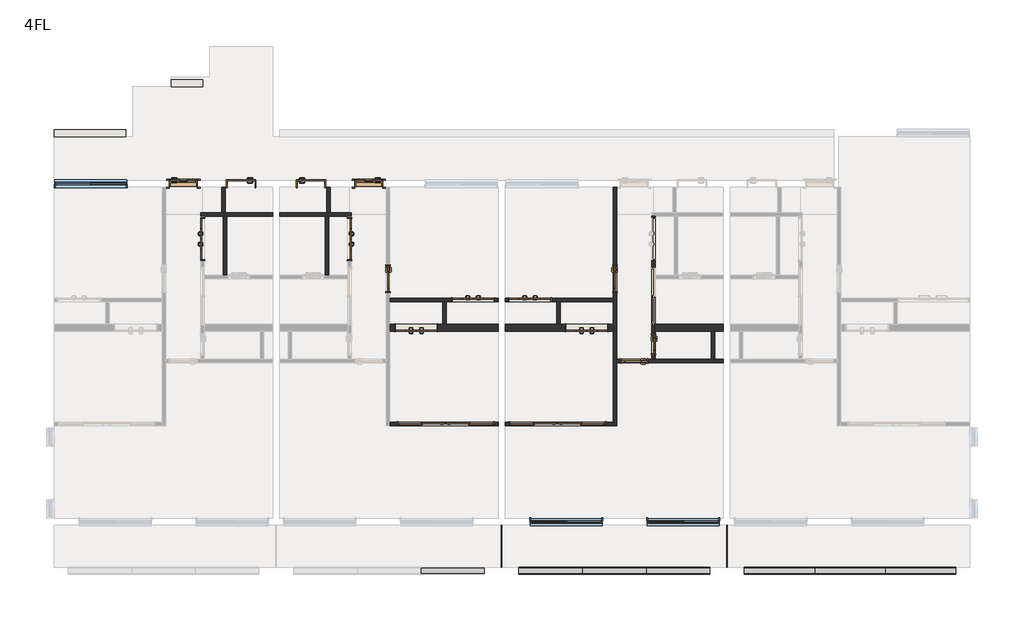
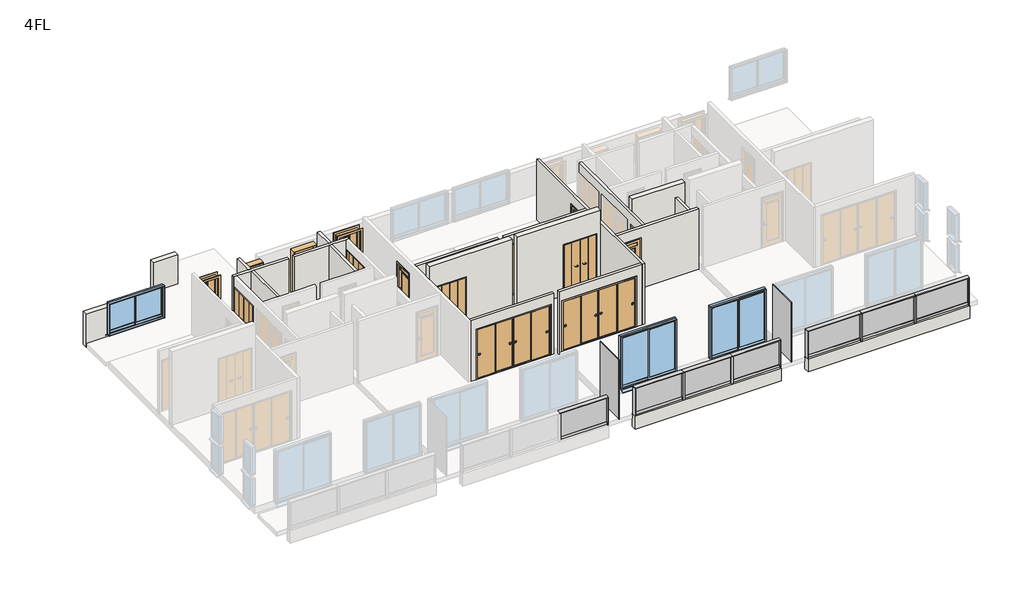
# One storey, part 2 of 3: 23 walls, 16 doors, 16 members, 9 plates, 3 windows.
"""IFC4 building model written with IfcOpenShell, lengths in millimetres."""

from ifc_helpers import new_model, si_unit, frame, origin, place, context, project, spatial, polyline, outline, extrude, faceted_brep, transform, mapped, element, save
from components import door_800x2000_a7d1584b, door_800x2000_010bfebf, w1200h2000_6a144d60, w1200h2000_98cacc9b, w1200h2000_99d19fb3, w1200h2000_ebe1d490, w2800h2000_670b855b, w2800h2000_04aa64cd, w600h2000_7f2747f4, w800h2000_1d97c4d4, w800h2000_13e9f519, w800h2000_ccb03061, w800h2000_0ab7d42c, member_25x150_3f8205e2, member_25x150_f694351b, member_25x150_e95393f9, member_70x150_851c8a9b, plate_9f48129f, plate_365944b3, plate_b830f844, plate_2f85ae4c, plate_cef4847d, window_2000x1200_fc91d1cf, window_2000x2000_f1ff98da

model = new_model("IFC4")

# Units and contexts
model_context = context("Model", 3, world=origin())
ifc_project = project(units=[si_unit("LENGTHUNIT", "METRE", prefix="MILLI")], contexts=[model_context])

# Site, building, storey
site = spatial("IfcSite", under=ifc_project)
building = spatial("IfcBuilding", under=site)
storey = spatial("IfcBuildingStorey", under=building, Name="4FL", Elevation=10000.0)

# Doors
placement = place(None, origin())
door_800x2000_shape = door_800x2000_a7d1584b(model_context)
element("IfcDoor", 1, ObjectType="片開き3 : 800x2000", at=placement, inside=storey, context=model_context, shape_type="MappedRepresentation", body=[
    mapped(door_800x2000_shape, transform((-7378.7187246, -5700.1171638, 10000.0), x_axis=(1.0, 0.0, 0.0), y_axis=(0.0, 1.0, 0.0), z_axis=(0.0, 0.0, 1.0))),
])
door_800x2000_2_shape = door_800x2000_010bfebf(model_context)
element("IfcDoor", 2, ObjectType="片開き3 : 800x2000", at=placement, inside=storey, context=model_context, shape_type="MappedRepresentation", body=[
    mapped(door_800x2000_2_shape, transform((-2078.7187246, -5700.1171638, 10000.0), x_axis=(-1.0, 0.0, 0.0), y_axis=(0.0, -1.0, 0.0), z_axis=(0.0, 0.0, 1.0))),
])
w1200h2000_shape = w1200h2000_6a144d60(model_context)
element("IfcDoor", 3, ObjectType="木製折戸 : w1200h2000", at=placement, inside=storey, context=model_context, shape_type="MappedRepresentation", body=[
    mapped(w1200h2000_shape, transform((-6828.7187246, -7280.1171638, 10100.0), x_axis=(0.0, 1.0, 0.0), y_axis=(-1.0, 0.0, 0.0), z_axis=(0.0, 0.0, 1.0))),
])
element("IfcDoor", 4, ObjectType="木製折戸 : w1200h2000", at=placement, inside=storey, context=model_context, shape_type="MappedRepresentation", body=[
    mapped(w1200h2000_shape, transform((2533.7812754, -9020.1171638, 10100.0), x_axis=(1.0, 0.0, 0.0), y_axis=(0.0, 1.0, 0.0), z_axis=(0.0, 0.0, 1.0))),
])
w1200h2000_2_shape = w1200h2000_98cacc9b(model_context)
element("IfcDoor", 5, ObjectType="木製折戸 : w1200h2000", at=placement, inside=storey, context=model_context, shape_type="MappedRepresentation", body=[
    mapped(w1200h2000_2_shape, transform((4158.7812754, -9820.1171638, 10100.0), x_axis=(-1.0, 0.0, 0.0), y_axis=(0.0, -1.0, 0.0), z_axis=(0.0, 0.0, 1.0))),
])
w1200h2000_3_shape = w1200h2000_99d19fb3(model_context)
element("IfcDoor", 6, ObjectType="木製折戸 : w1200h2000", at=placement, inside=storey, context=model_context, shape_type="MappedRepresentation", body=[
    mapped(w1200h2000_3_shape, transform((908.7812754, -9020.1171638, 10100.0), x_axis=(-1.0, 0.0, 0.0), y_axis=(0.0, -1.0, 0.0), z_axis=(0.0, 0.0, 1.0))),
])
element("IfcDoor", 7, ObjectType="木製折戸 : w1200h2000", at=placement, inside=storey, context=model_context, shape_type="MappedRepresentation", body=[
    mapped(w1200h2000_3_shape, transform((-2628.7187246, -7280.1171638, 10100.0), x_axis=(0.0, 1.0, 0.0), y_axis=(-1.0, 0.0, 0.0), z_axis=(0.0, 0.0, 1.0))),
])
w1200h2000_4_shape = w1200h2000_ebe1d490(model_context)
element("IfcDoor", 8, ObjectType="木製折戸 : w1200h2000", at=placement, inside=storey, context=model_context, shape_type="MappedRepresentation", body=[
    mapped(w1200h2000_4_shape, transform((-716.2187246, -9820.1171638, 10100.0), x_axis=(1.0, 0.0, 0.0), y_axis=(0.0, 1.0, 0.0), z_axis=(0.0, 0.0, 1.0))),
])
w2800h2000_shape = w2800h2000_670b855b(model_context)
element("IfcDoor", 9, ObjectType="引違い 4 枚 2 溝_襖 : w2800h2000", at=placement, inside=storey, context=model_context, shape_type="MappedRepresentation", body=[
    mapped(w2800h2000_shape, transform((3315.7457714, -12570.1171638, 10100.0), x_axis=(-1.0, 0.0, 0.0), y_axis=(0.0, -1.0, 0.0), z_axis=(0.0, 0.0, 1.0))),
])
w2800h2000_2_shape = w2800h2000_04aa64cd(model_context)
element("IfcDoor", 10, ObjectType="引違い 4 枚 2 溝_襖 : w2800h2000", at=placement, inside=storey, context=model_context, shape_type="MappedRepresentation", body=[
    mapped(w2800h2000_2_shape, transform((126.8167793, -12570.1171638, 10100.0), x_axis=(1.0, 0.0, 0.0), y_axis=(0.0, 1.0, 0.0), z_axis=(0.0, 0.0, 1.0))),
])
w600h2000_shape = w600h2000_7f2747f4(model_context)
element("IfcDoor", 11, ObjectType="片開戸CL2058 : w600h2000", at=placement, inside=storey, context=model_context, shape_type="MappedRepresentation", body=[
    mapped(w600h2000_shape, transform((6071.2812754, -10295.1171638, 10100.0), x_axis=(0.0, -1.0, 0.0), y_axis=(1.0, 0.0, 0.0), z_axis=(0.0, 0.0, 1.0))),
])
w800h2000_shape = w800h2000_1d97c4d4(model_context)
element("IfcDoor", 12, ObjectType="片開 : w800h2000", at=placement, inside=storey, context=model_context, shape_type="MappedRepresentation", body=[
    mapped(w800h2000_shape, transform((-5728.7187246, -5700.1171638, 10000.0), x_axis=(-1.0, 0.0, 0.0), y_axis=(0.0, -1.0, 0.0), z_axis=(0.0, 0.0, 1.0))),
])
w800h2000_2_shape = w800h2000_13e9f519(model_context)
element("IfcDoor", 13, ObjectType="片開戸CL2058 : w800h2000", at=placement, inside=storey, context=model_context, shape_type="MappedRepresentation", body=[
    mapped(w800h2000_2_shape, transform((4971.2812754, -8420.1171638, 10100.0), x_axis=(0.0, -1.0, 0.0), y_axis=(1.0, 0.0, 0.0), z_axis=(0.0, 0.0, 1.0))),
])
w800h2000_3_shape = w800h2000_ccb03061(model_context)
element("IfcDoor", 14, ObjectType="片開戸CL2058 : w800h2000", at=placement, inside=storey, context=model_context, shape_type="MappedRepresentation", body=[
    mapped(w800h2000_3_shape, transform((-1528.7187246, -8420.1171638, 10100.0), x_axis=(0.0, -1.0, 0.0), y_axis=(1.0, 0.0, 0.0), z_axis=(0.0, 0.0, 1.0))),
])
element("IfcDoor", 15, ObjectType="片開戸CL2058 : w800h2000", at=placement, inside=storey, context=model_context, shape_type="MappedRepresentation", body=[
    mapped(w800h2000_3_shape, transform((5521.2812754, -10770.1171638, 10100.0), x_axis=(-1.0, 0.0, 0.0), y_axis=(0.0, -1.0, 0.0), z_axis=(0.0, 0.0, 1.0))),
])
w800h2000_4_shape = w800h2000_0ab7d42c(model_context)
element("IfcDoor", 16, ObjectType="片開 : w800h2000", at=placement, inside=storey, context=model_context, shape_type="MappedRepresentation", body=[
    mapped(w800h2000_4_shape, transform((-3728.7187246, -5700.1171638, 10000.0), x_axis=(1.0, 0.0, 0.0), y_axis=(0.0, 1.0, 0.0), z_axis=(0.0, 0.0, 1.0))),
])

# Members
member_25x150_shape = member_25x150_3f8205e2(model_context)
element("IfcMember", 17, ObjectType="長方形のマリオン : 25x150", at=placement, inside=storey, context=model_context, shape_type="MappedRepresentation", body=[
    mapped(member_25x150_shape, transform((1221.2812754, -16770.1171638, 10000.0), x_axis=(1.0, 0.0, 0.0), y_axis=(0.0, -1.0, 0.0), z_axis=(0.0, 0.0, -1.0))),
])
element("IfcMember", 18, ObjectType="長方形のマリオン : 25x150", at=placement, inside=storey, context=model_context, shape_type="MappedRepresentation", body=[
    mapped(member_25x150_shape, transform((7671.2812754, -16770.1171638, 10000.0), x_axis=(1.0, 0.0, 0.0), y_axis=(0.0, -1.0, 0.0), z_axis=(0.0, 0.0, -1.0))),
])
element("IfcMember", 19, ObjectType="長方形のマリオン : 25x150", at=placement, inside=storey, context=model_context, shape_type="MappedRepresentation", body=[
    mapped(member_25x150_shape, transform((14721.2812754, -16770.1171638, 10000.0), x_axis=(1.0, 0.0, 0.0), y_axis=(0.0, -1.0, 0.0), z_axis=(0.0, 0.0, -1.0))),
])
element("IfcMember", 20, ObjectType="長方形のマリオン : 25x150", at=placement, inside=storey, context=model_context, shape_type="MappedRepresentation", body=[
    mapped(member_25x150_shape, transform((2221.2812754, -16770.1171638, 11075.0), x_axis=(-1.0, 0.0, 0.0), y_axis=(0.0, -1.0, 0.0), z_axis=(0.0, 0.0, 1.0))),
])
element("IfcMember", 21, ObjectType="長方形のマリオン : 25x150", at=placement, inside=storey, context=model_context, shape_type="MappedRepresentation", body=[
    mapped(member_25x150_shape, transform((8671.2812754, -16770.1171638, 11075.0), x_axis=(-1.0, 0.0, 0.0), y_axis=(0.0, -1.0, 0.0), z_axis=(0.0, 0.0, 1.0))),
])
member_25x150_2_shape = member_25x150_f694351b(model_context)
element("IfcMember", 22, ObjectType="長方形のマリオン : 25x150", at=placement, inside=storey, context=model_context, shape_type="MappedRepresentation", body=[
    mapped(member_25x150_2_shape, transform((1221.2812754, -16770.1171638, 11100.0), x_axis=(0.0, 0.0, 1.0), y_axis=(0.0, -1.0, 0.0), z_axis=(1.0, 0.0, 0.0))),
])
element("IfcMember", 23, ObjectType="長方形のマリオン : 25x150", at=placement, inside=storey, context=model_context, shape_type="MappedRepresentation", body=[
    mapped(member_25x150_2_shape, transform((7671.2812754, -16770.1171638, 11100.0), x_axis=(0.0, 0.0, 1.0), y_axis=(0.0, -1.0, 0.0), z_axis=(1.0, 0.0, 0.0))),
])
element("IfcMember", 24, ObjectType="長方形のマリオン : 25x150", at=placement, inside=storey, context=model_context, shape_type="MappedRepresentation", body=[
    mapped(member_25x150_2_shape, transform((4037.947942, -16770.1171638, 11100.0), x_axis=(0.0, 0.0, 1.0), y_axis=(0.0, -1.0, 0.0), z_axis=(1.0, 0.0, 0.0))),
])
element("IfcMember", 25, ObjectType="長方形のマリオン : 25x150", at=placement, inside=storey, context=model_context, shape_type="MappedRepresentation", body=[
    mapped(member_25x150_2_shape, transform((5854.6146087, -16770.1171638, 11100.0), x_axis=(0.0, 0.0, 1.0), y_axis=(0.0, -1.0, 0.0), z_axis=(1.0, 0.0, 0.0))),
])
member_25x150_3_shape = member_25x150_e95393f9(model_context)
element("IfcMember", 26, ObjectType="長方形のマリオン : 25x150", at=placement, inside=storey, context=model_context, shape_type="MappedRepresentation", body=[
    mapped(member_25x150_3_shape, transform((14721.2812754, -16770.1171638, 11100.0), x_axis=(0.0, 0.0, 1.0), y_axis=(0.0, -1.0, 0.0), z_axis=(1.0, 0.0, 0.0))),
])
element("IfcMember", 27, ObjectType="長方形のマリオン : 25x150", at=placement, inside=storey, context=model_context, shape_type="MappedRepresentation", body=[
    mapped(member_25x150_3_shape, transform((10687.947942, -16770.1171638, 11100.0), x_axis=(0.0, 0.0, 1.0), y_axis=(0.0, -1.0, 0.0), z_axis=(1.0, 0.0, 0.0))),
])
element("IfcMember", 28, ObjectType="長方形のマリオン : 25x150", at=placement, inside=storey, context=model_context, shape_type="MappedRepresentation", body=[
    mapped(member_25x150_3_shape, transform((12704.6146087, -16770.1171638, 11100.0), x_axis=(0.0, 0.0, 1.0), y_axis=(0.0, -1.0, 0.0), z_axis=(1.0, 0.0, 0.0))),
])
member_70x150_shape = member_70x150_851c8a9b(model_context)
element("IfcMember", 29, ObjectType="長方形のマリオン : 70x150", at=placement, inside=storey, context=model_context, shape_type="MappedRepresentation", body=[
    mapped(member_70x150_shape, transform((4037.947942, -16770.1171638, 10000.0), x_axis=(1.0, 0.0, 0.0), y_axis=(0.0, -1.0, 0.0), z_axis=(0.0, 0.0, -1.0))),
])
element("IfcMember", 30, ObjectType="長方形のマリオン : 70x150", at=placement, inside=storey, context=model_context, shape_type="MappedRepresentation", body=[
    mapped(member_70x150_shape, transform((5854.6146087, -16770.1171638, 10000.0), x_axis=(1.0, 0.0, 0.0), y_axis=(0.0, -1.0, 0.0), z_axis=(0.0, 0.0, -1.0))),
])
element("IfcMember", 31, ObjectType="長方形のマリオン : 70x150", at=placement, inside=storey, context=model_context, shape_type="MappedRepresentation", body=[
    mapped(member_70x150_shape, transform((10687.947942, -16770.1171638, 10000.0), x_axis=(1.0, 0.0, 0.0), y_axis=(0.0, -1.0, 0.0), z_axis=(0.0, 0.0, -1.0))),
])
element("IfcMember", 32, ObjectType="長方形のマリオン : 70x150", at=placement, inside=storey, context=model_context, shape_type="MappedRepresentation", body=[
    mapped(member_70x150_shape, transform((12704.6146087, -16770.1171638, 10000.0), x_axis=(1.0, 0.0, 0.0), y_axis=(0.0, -1.0, 0.0), z_axis=(0.0, 0.0, -1.0))),
])

# Plates
plate_shape = plate_9f48129f(model_context)
element("IfcPlate", 33, ObjectType="r パネル FIX 下框付 : 框 H100", at=placement, inside=storey, context=model_context, shape_type="MappedRepresentation", body=[
    mapped(plate_shape, transform((317.947942, -16770.1171638, 10000.0), x_axis=(1.0, 0.0, 0.0), y_axis=(0.0, 1.0, 0.0), z_axis=(0.0, 0.0, 1.0))),
])
element("IfcPlate", 34, ObjectType="r パネル FIX 下框付 : 框 H100", at=placement, inside=storey, context=model_context, shape_type="MappedRepresentation", body=[
    mapped(plate_shape, transform((3124.6146087, -16770.1171638, 10000.0), x_axis=(1.0, 0.0, 0.0), y_axis=(0.0, 1.0, 0.0), z_axis=(0.0, 0.0, 1.0))),
])
element("IfcPlate", 35, ObjectType="r パネル FIX 下框付 : 框 H100", at=placement, inside=storey, context=model_context, shape_type="MappedRepresentation", body=[
    mapped(plate_shape, transform((6767.947942, -16770.1171638, 10000.0), x_axis=(1.0, 0.0, 0.0), y_axis=(0.0, 1.0, 0.0), z_axis=(0.0, 0.0, 1.0))),
])
plate_2_shape = plate_365944b3(model_context)
element("IfcPlate", 36, ObjectType="r パネル FIX 下框付 : 框 H100", at=placement, inside=storey, context=model_context, shape_type="MappedRepresentation", body=[
    mapped(plate_2_shape, transform((4946.2812754, -16770.1171638, 10000.0), x_axis=(1.0, 0.0, 0.0), y_axis=(0.0, 1.0, 0.0), z_axis=(0.0, 0.0, 1.0))),
])
plate_3_shape = plate_b830f844(model_context)
element("IfcPlate", 37, ObjectType="r パネル FIX 下框付 : 框 H100", at=placement, inside=storey, context=model_context, shape_type="MappedRepresentation", body=[
    mapped(plate_3_shape, transform((9674.6146087, -16770.1171638, 10000.0), x_axis=(1.0, 0.0, 0.0), y_axis=(0.0, 1.0, 0.0), z_axis=(0.0, 0.0, 1.0))),
])
element("IfcPlate", 38, ObjectType="r パネル FIX 下框付 : 框 H100", at=placement, inside=storey, context=model_context, shape_type="MappedRepresentation", body=[
    mapped(plate_3_shape, transform((13717.947942, -16770.1171638, 10000.0), x_axis=(1.0, 0.0, 0.0), y_axis=(0.0, 1.0, 0.0), z_axis=(0.0, 0.0, 1.0))),
])
plate_4_shape = plate_2f85ae4c(model_context)
element("IfcPlate", 39, ObjectType="r パネル FIX 下框付 : 框 H100", at=placement, inside=storey, context=model_context, shape_type="MappedRepresentation", body=[
    mapped(plate_4_shape, transform((11696.2812754, -16770.1171638, 10000.0), x_axis=(1.0, 0.0, 0.0), y_axis=(0.0, 1.0, 0.0), z_axis=(0.0, 0.0, 1.0))),
])
plate_5_shape = plate_cef4847d(model_context)
element("IfcPlate", 40, ObjectType="システム パネル : 標準", at=placement, inside=storey, context=model_context, shape_type="MappedRepresentation", body=[
    mapped(plate_5_shape, transform((1721.2812754, -16070.1171638, 9950.0), x_axis=(0.0, -1.0, 0.0), y_axis=(1.0, 0.0, 0.0), z_axis=(0.0, 0.0, 1.0))),
])
element("IfcPlate", 41, ObjectType="システム パネル : 標準", at=placement, inside=storey, context=model_context, shape_type="MappedRepresentation", body=[
    mapped(plate_5_shape, transform((8171.2812754, -16070.1171638, 9950.0), x_axis=(0.0, -1.0, 0.0), y_axis=(1.0, 0.0, 0.0), z_axis=(0.0, 0.0, 1.0))),
])

# Walls
element("IfcWall", 42, ObjectType="(R)RC200", at=placement, inside=storey, context=model_context, shape_type="Brep", body=[
    faceted_brep([(1621.2812754, -9720.1171638, 10000.0), (146.2812754, -9720.1171638, 10000.0), (46.2812754, -9720.1171638, 10000.0), (-1478.7187246, -9720.1171638, 10000.0), (-1478.7187246, -9720.1171638, 13000.0), (1621.2812754, -9720.1171638, 13000.0), (-96.2187246, -9720.1171638, 12120.0), (-1336.2187246, -9720.1171638, 12120.0), (-1336.2187246, -9720.1171638, 10100.0), (-96.2187246, -9720.1171638, 10100.0), (1621.2812754, -9920.1171638, 10000.0), (1621.2812754, -9920.1171638, 13000.0), (-1478.7187246, -9920.1171638, 13000.0), (-1478.7187246, -9920.1171638, 10000.0), (-96.2187246, -9920.1171638, 12120.0), (-96.2187246, -9920.1171638, 10100.0), (-1336.2187246, -9920.1171638, 10100.0), (-1336.2187246, -9920.1171638, 12120.0)], [[[0, 1, 2, 3, 4, 5], [6, 7, 8, 9]], [[10, 11, 12, 13], [14, 15, 16, 17]], [[3, 2, 1, 0, 10, 13]], [[5, 4, 12, 11]], [[4, 3, 13, 12]], [[15, 14, 6, 9]], [[16, 15, 9, 8]], [[17, 16, 8, 7]], [[14, 17, 7, 6]], [[0, 5, 11, 10]]]),
])
element("IfcWall", 43, ObjectType="(R)RC200", at=placement, inside=storey, context=model_context, shape_type="Brep", body=[
    faceted_brep([(1821.2812754, -9920.1171638, 10000.0), (4921.2812754, -9920.1171638, 10000.0), (4921.2812754, -9920.1171638, 13000.0), (1821.2812754, -9920.1171638, 13000.0), (3538.7812754, -9920.1171638, 12120.0), (4778.7812754, -9920.1171638, 12120.0), (4778.7812754, -9920.1171638, 10100.0), (3538.7812754, -9920.1171638, 10100.0), (1821.2812754, -9720.1171638, 10000.0), (1821.2812754, -9720.1171638, 13000.0), (4921.2812754, -9720.1171638, 13000.0), (4921.2812754, -9720.1171638, 10000.0), (3396.2812754, -9720.1171638, 10000.0), (3296.2812754, -9720.1171638, 10000.0), (3538.7812754, -9720.1171638, 12120.0), (3538.7812754, -9720.1171638, 10100.0), (4778.7812754, -9720.1171638, 10100.0), (4778.7812754, -9720.1171638, 12120.0)], [[[0, 1, 2, 3], [4, 5, 6, 7]], [[8, 9, 10, 11, 12, 13], [14, 15, 16, 17]], [[1, 0, 8, 13, 12, 11]], [[3, 2, 10, 9]], [[2, 1, 11, 10]], [[15, 14, 4, 7]], [[16, 15, 7, 6]], [[17, 16, 6, 5]], [[14, 17, 5, 4]], [[0, 3, 9, 8]]]),
])
element("IfcWall", 44, ObjectType="(R)RC200", at=placement, inside=storey, context=model_context, shape_type="Brep", body=[
    faceted_brep([(6121.2812754, -9920.1171638, 10000.0), (7721.2812754, -9920.1171638, 10000.0), (7821.2812754, -9920.1171638, 10000.0), (8071.2812754, -9920.1171638, 10000.0), (8071.2812754, -9920.1171638, 13000.0), (6121.2812754, -9920.1171638, 13000.0), (6121.2812754, -9720.1171638, 10000.0), (6121.2812754, -9720.1171638, 13000.0), (8071.2812754, -9720.1171638, 13000.0), (8071.2812754, -9720.1171638, 10000.0)], [[[0, 1, 2, 3, 4, 5]], [[6, 7, 8, 9]], [[3, 2, 1, 0, 6, 9]], [[5, 4, 8, 7]], [[0, 5, 7, 6]], [[4, 3, 9, 8]]]),
])
element("IfcWall", 45, ObjectType="(R)RC200", at=placement, inside=storey, context=model_context, shape_type="SweptSolid", body=[
    extrude(outline(polyline([(-9028.7187246, -4350.1171638), (-11078.7187246, -4350.1171638), (-11078.7187246, -4150.1171638), (-9028.7187246, -4150.1171638), (-9028.7187246, -4350.1171638)])), frame((0.0, 0.0, 9800.0), z_axis=(0.0, 0.0, 1.0), x_axis=(1.0, 0.0, 0.0)), (0.0, 0.0, 1.0), 1300.0),
])
element("IfcWall", 46, ObjectType="(R)RC200", at=placement, inside=storey, context=model_context, shape_type="SweptSolid", body=[
    extrude(outline(polyline([(7671.2812754, -16870.1171638), (2221.2812754, -16870.1171638), (2221.2812754, -16670.1171638), (7671.2812754, -16670.1171638), (7671.2812754, -16870.1171638)])), frame((0.0, 0.0, 9500.0), z_axis=(0.0, 0.0, 1.0), x_axis=(1.0, 0.0, 0.0)), (0.0, 0.0, 1.0), 500.0),
])
element("IfcWall", 47, ObjectType="(R)RC200", at=placement, inside=storey, context=model_context, shape_type="SweptSolid", body=[
    extrude(outline(polyline([(14721.2812754, -16870.1171638), (8671.2812754, -16870.1171638), (8671.2812754, -16670.1171638), (14721.2812754, -16670.1171638), (14721.2812754, -16870.1171638)])), frame((0.0, 0.0, 9500.0), z_axis=(0.0, 0.0, 1.0), x_axis=(1.0, 0.0, 0.0)), (0.0, 0.0, 1.0), 500.0),
])
element("IfcWall", 48, ObjectType="(R)RC200", at=placement, inside=storey, context=model_context, shape_type="SweptSolid", body=[
    extrude(outline(polyline([(-6828.7187246, -2920.1171638), (-7728.7187246, -2920.1171638), (-7728.7187246, -2720.1171638), (-6828.7187246, -2720.1171638), (-6828.7187246, -2920.1171638)])), frame((0.0, 0.0, 9950.0), z_axis=(0.0, 0.0, 1.0), x_axis=(1.0, 0.0, 0.0)), (0.0, 0.0, 1.0), 1150.0),
])
element("IfcWall", 49, ObjectType="(L1)LGS100", at=placement, inside=storey, context=model_context, shape_type="Brep", body=[
    faceted_brep([(-6878.7187246, -6630.1171638, 10000.0), (-6778.7187246, -6630.1171638, 10000.0), (-6238.7187246, -6630.1171638, 10000.0), (-6138.7187246, -6630.1171638, 10000.0), (-4828.7187246, -6630.1171638, 10000.0), (-4828.7187246, -6630.1171638, 12500.0), (-6138.7187246, -6630.1171638, 12500.0), (-6238.7187246, -6630.1171638, 12500.0), (-6778.7187246, -6630.1171638, 12500.0), (-6878.7187246, -6630.1171638, 12500.0), (-6878.7187246, -6530.1171638, 10000.0), (-6878.7187246, -6530.1171638, 12500.0), (-6278.7187246, -6530.1171638, 12500.0), (-6178.7187246, -6530.1171638, 12500.0), (-4828.7187246, -6530.1171638, 12500.0), (-4828.7187246, -6530.1171638, 10000.0), (-6178.7187246, -6530.1171638, 10000.0), (-6278.7187246, -6530.1171638, 10000.0)], [[[0, 1, 2, 3, 4, 5, 6, 7, 8, 9]], [[10, 11, 12, 13, 14, 15, 16, 17]], [[4, 3, 2, 1, 0, 10, 17, 16, 15]], [[9, 8, 7, 6, 5, 14, 13, 12, 11]], [[0, 9, 11, 10]], [[5, 4, 15, 14]]]),
])
element("IfcWall", 50, ObjectType="(L1)LGS100", at=placement, inside=storey, context=model_context, shape_type="SweptSolid", body=[
    extrude(outline(polyline([(-6178.7187246, -5800.1171638), (-6178.7187246, -6530.1171638), (-6278.7187246, -6530.1171638), (-6278.7187246, -5800.1171638), (-6178.7187246, -5800.1171638)])), frame((0.0, 0.0, 10000.0), z_axis=(0.0, 0.0, 1.0), x_axis=(1.0, 0.0, 0.0)), (0.0, 0.0, 1.0), 2500.0),
])
element("IfcWall", 51, ObjectType="(L1)LGS100", at=placement, inside=storey, context=model_context, shape_type="SweptSolid", body=[
    extrude(outline(polyline([(-6138.7187246, -6630.1171638), (-6138.7187246, -8320.1171638), (-6238.7187246, -8320.1171638), (-6238.7187246, -6630.1171638), (-6138.7187246, -6630.1171638)])), frame((0.0, 0.0, 10000.0), z_axis=(0.0, 0.0, 1.0), x_axis=(1.0, 0.0, 0.0)), (0.0, 0.0, 1.0), 2500.0),
])
element("IfcWall", 52, ObjectType="(L1)LGS100", at=placement, inside=storey, context=model_context, shape_type="Brep", body=[
    faceted_brep([(1621.2812754, -8970.1171638, 10000.0), (-1478.7187246, -8970.1171638, 10000.0), (-1478.7187246, -8970.1171638, 12500.0), (1621.2812754, -8970.1171638, 12500.0), (288.7812754, -8970.1171638, 12120.0), (288.7812754, -8970.1171638, 10100.0), (1528.7812754, -8970.1171638, 10100.0), (1528.7812754, -8970.1171638, 12120.0), (-1478.7187246, -9070.1171638, 10000.0), (46.2812754, -9070.1171638, 10000.0), (146.2812754, -9070.1171638, 10000.0), (1621.2812754, -9070.1171638, 10000.0), (1621.2812754, -9070.1171638, 12500.0), (146.2812754, -9070.1171638, 12500.0), (46.2812754, -9070.1171638, 12500.0), (-1478.7187246, -9070.1171638, 12500.0), (288.7812754, -9070.1171638, 10100.0), (288.7812754, -9070.1171638, 12120.0), (1528.7812754, -9070.1171638, 12120.0), (1528.7812754, -9070.1171638, 10100.0)], [[[0, 1, 2, 3], [4, 5, 6, 7]], [[8, 9, 10, 11, 12, 13, 14, 15], [16, 17, 18, 19]], [[1, 0, 11, 10, 9, 8]], [[3, 2, 15, 14, 13, 12]], [[2, 1, 8, 15]], [[4, 17, 16, 5]], [[5, 16, 19, 6]], [[17, 4, 7, 18]], [[18, 7, 6, 19]], [[0, 3, 12, 11]]]),
])
element("IfcWall", 53, ObjectType="(L1)LGS100", at=placement, inside=storey, context=model_context, shape_type="SweptSolid", body=[
    extrude(outline(polyline([(146.2812754, -9070.1171638), (146.2812754, -9720.1171638), (46.2812754, -9720.1171638), (46.2812754, -9070.1171638), (146.2812754, -9070.1171638)])), frame((0.0, 0.0, 10000.0), z_axis=(0.0, 0.0, 1.0), x_axis=(1.0, 0.0, 0.0)), (0.0, 0.0, 1.0), 2500.0),
])
element("IfcWall", 54, ObjectType="(L1)LGS100", at=placement, inside=storey, context=model_context, shape_type="Brep", body=[
    faceted_brep([(-2578.7187246, -6530.1171638, 10000.0), (-3178.7187246, -6530.1171638, 10000.0), (-3278.7187246, -6530.1171638, 10000.0), (-4628.7187246, -6530.1171638, 10000.0), (-4628.7187246, -6530.1171638, 12500.0), (-3278.7187246, -6530.1171638, 12500.0), (-3178.7187246, -6530.1171638, 12500.0), (-2578.7187246, -6530.1171638, 12500.0), (-2578.7187246, -6630.1171638, 10000.0), (-2578.7187246, -6630.1171638, 12500.0), (-2678.7187246, -6630.1171638, 12500.0), (-3218.7187246, -6630.1171638, 12500.0), (-3318.7187246, -6630.1171638, 12500.0), (-4628.7187246, -6630.1171638, 12500.0), (-4628.7187246, -6630.1171638, 10000.0), (-3318.7187246, -6630.1171638, 10000.0), (-3218.7187246, -6630.1171638, 10000.0), (-2678.7187246, -6630.1171638, 10000.0)], [[[0, 1, 2, 3, 4, 5, 6, 7]], [[8, 9, 10, 11, 12, 13, 14, 15, 16, 17]], [[3, 2, 1, 0, 8, 17, 16, 15, 14]], [[7, 6, 5, 4, 13, 12, 11, 10, 9]], [[0, 7, 9, 8]], [[4, 3, 14, 13]]]),
])
element("IfcWall", 55, ObjectType="(L1)LGS100", at=placement, inside=storey, context=model_context, shape_type="SweptSolid", body=[
    extrude(outline(polyline([(-3178.7187246, -5800.1171638), (-3178.7187246, -6530.1171638), (-3278.7187246, -6530.1171638), (-3278.7187246, -5800.1171638), (-3178.7187246, -5800.1171638)])), frame((0.0, 0.0, 10000.0), z_axis=(0.0, 0.0, 1.0), x_axis=(1.0, 0.0, 0.0)), (0.0, 0.0, 1.0), 2500.0),
])
element("IfcWall", 56, ObjectType="(L1)LGS100", at=placement, inside=storey, context=model_context, shape_type="SweptSolid", body=[
    extrude(outline(polyline([(-3218.7187246, -6630.1171638), (-3218.7187246, -8320.1171638), (-3318.7187246, -8320.1171638), (-3318.7187246, -6630.1171638), (-3218.7187246, -6630.1171638)])), frame((0.0, 0.0, 10000.0), z_axis=(0.0, 0.0, 1.0), x_axis=(1.0, 0.0, 0.0)), (0.0, 0.0, 1.0), 2500.0),
])
element("IfcWall", 57, ObjectType="(L1)LGS100", at=placement, inside=storey, context=model_context, shape_type="SweptSolid", body=[
    extrude(outline(polyline([(10000.0, 1621.2812754), (12500.0, 1621.2812754), (12500.0, -1478.7187246), (10000.0, -1478.7187246), (10000.0, 1621.2812754)]), holes=[polyline([(12100.0, 1521.2812754), (10100.0, 1521.2812754), (10100.0, -1278.7187246), (12100.0, -1278.7187246), (12100.0, 1521.2812754)])]), frame((0.0, -12620.1171638, 0.0), z_axis=(0.0, 1.0, 0.0), x_axis=(0.0, 0.0, 1.0)), (0.0, 0.0, 1.0), 100.0),
])
element("IfcWall", 58, ObjectType="(L1)LGS100", at=placement, inside=storey, context=model_context, shape_type="Brep", body=[
    faceted_brep([(1821.2812754, -9070.1171638, 10000.0), (3296.2812754, -9070.1171638, 10000.0), (3396.2812754, -9070.1171638, 10000.0), (4921.2812754, -9070.1171638, 10000.0), (4921.2812754, -9070.1171638, 12500.0), (3396.2812754, -9070.1171638, 12500.0), (3296.2812754, -9070.1171638, 12500.0), (1821.2812754, -9070.1171638, 12500.0), (3153.7812754, -9070.1171638, 12120.0), (3153.7812754, -9070.1171638, 10100.0), (1913.7812754, -9070.1171638, 10100.0), (1913.7812754, -9070.1171638, 12120.0), (4921.2812754, -8970.1171638, 10000.0), (1821.2812754, -8970.1171638, 10000.0), (1821.2812754, -8970.1171638, 12500.0), (4921.2812754, -8970.1171638, 12500.0), (3153.7812754, -8970.1171638, 10100.0), (3153.7812754, -8970.1171638, 12120.0), (1913.7812754, -8970.1171638, 12120.0), (1913.7812754, -8970.1171638, 10100.0)], [[[0, 1, 2, 3, 4, 5, 6, 7], [8, 9, 10, 11]], [[12, 13, 14, 15], [16, 17, 18, 19]], [[3, 2, 1, 0, 13, 12]], [[7, 6, 5, 4, 15, 14]], [[4, 3, 12, 15]], [[8, 17, 16, 9]], [[9, 16, 19, 10]], [[17, 8, 11, 18]], [[18, 11, 10, 19]], [[0, 7, 14, 13]]]),
])
element("IfcWall", 59, ObjectType="(L1)LGS100", at=placement, inside=storey, context=model_context, shape_type="SweptSolid", body=[
    extrude(outline(polyline([(3396.2812754, -9070.1171638), (3396.2812754, -9720.1171638), (3296.2812754, -9720.1171638), (3296.2812754, -9070.1171638), (3396.2812754, -9070.1171638)])), frame((0.0, 0.0, 10000.0), z_axis=(0.0, 0.0, 1.0), x_axis=(1.0, 0.0, 0.0)), (0.0, 0.0, 1.0), 2500.0),
])
element("IfcWall", 60, ObjectType="(L1)LGS100", at=placement, inside=storey, context=model_context, shape_type="Brep", body=[
    faceted_brep([(5021.2812754, -12620.1171638, 10000.0), (5021.2812754, -10820.1171638, 10000.0), (5021.2812754, -10720.1171638, 10000.0), (5021.2812754, -5800.1171638, 10000.0), (5021.2812754, -5800.1171638, 12500.0), (5021.2812754, -10720.1171638, 12500.0), (5021.2812754, -10820.1171638, 12500.0), (5021.2812754, -12620.1171638, 12500.0), (5021.2812754, -8820.1171638, 10100.0), (5021.2812754, -8820.1171638, 12100.0), (5021.2812754, -8020.1171638, 12100.0), (5021.2812754, -8020.1171638, 10100.0), (4921.2812754, -12620.1171638, 10000.0), (4921.2812754, -12620.1171638, 12500.0), (4921.2812754, -12520.1171638, 12500.0), (4921.2812754, -9070.1171638, 12500.0), (4921.2812754, -8970.1171638, 12500.0), (4921.2812754, -5800.1171638, 12500.0), (4921.2812754, -5800.1171638, 10000.0), (4921.2812754, -8970.1171638, 10000.0), (4921.2812754, -9070.1171638, 10000.0), (4921.2812754, -9720.1171638, 10000.0), (4921.2812754, -9920.1171638, 10000.0), (4921.2812754, -12520.1171638, 10000.0), (4921.2812754, -8820.1171638, 10100.0), (4921.2812754, -8020.1171638, 10100.0), (4921.2812754, -8020.1171638, 12100.0), (4921.2812754, -8820.1171638, 12100.0)], [[[0, 1, 2, 3, 4, 5, 6, 7], [8, 9, 10, 11]], [[12, 13, 14, 15, 16, 17, 18, 19, 20, 21, 22, 23], [24, 25, 26, 27]], [[3, 2, 1, 0, 12, 23, 22, 21, 20, 19, 18]], [[7, 6, 5, 4, 17, 16, 15, 14, 13]], [[0, 7, 13, 12]], [[9, 8, 24, 27]], [[10, 9, 27, 26]], [[11, 10, 26, 25]], [[8, 11, 25, 24]], [[4, 3, 18, 17]]]),
])
element("IfcWall", 61, ObjectType="(L1)LGS100", at=placement, inside=storey, context=model_context, shape_type="Brep", body=[
    faceted_brep([(6121.2812754, -10720.1171638, 10000.0), (6121.2812754, -9920.1171638, 10000.0), (6121.2812754, -9720.1171638, 10000.0), (6121.2812754, -8420.1171638, 10000.0), (6121.2812754, -8320.1171638, 10000.0), (6121.2812754, -6630.1171638, 10000.0), (6121.2812754, -6630.1171638, 12500.0), (6121.2812754, -8320.1171638, 12500.0), (6121.2812754, -8420.1171638, 12500.0), (6121.2812754, -10720.1171638, 12500.0), (6121.2812754, -10595.1171638, 10100.0), (6121.2812754, -10595.1171638, 12100.0), (6121.2812754, -9995.1171638, 12100.0), (6121.2812754, -9995.1171638, 10100.0), (6121.2812754, -6660.1171638, 10100.0), (6121.2812754, -7900.1171638, 10100.0), (6121.2812754, -7900.1171638, 12120.0), (6121.2812754, -6660.1171638, 12120.0), (6121.2812754, -9745.1171638, 10100.0), (6121.2812754, -9745.1171638, 12140.0), (6121.2812754, -8095.1171638, 12140.0), (6121.2812754, -8095.1171638, 10100.0), (6021.2812754, -6630.1171638, 10000.0), (6021.2812754, -10720.1171638, 10000.0), (6021.2812754, -10720.1171638, 12500.0), (6021.2812754, -6630.1171638, 12500.0), (6021.2812754, -10595.1171638, 10100.0), (6021.2812754, -9995.1171638, 10100.0), (6021.2812754, -9995.1171638, 12100.0), (6021.2812754, -10595.1171638, 12100.0), (6021.2812754, -7900.1171638, 10100.0), (6021.2812754, -6660.1171638, 10100.0), (6021.2812754, -6660.1171638, 12120.0), (6021.2812754, -7900.1171638, 12120.0), (6021.2812754, -9745.1171638, 10100.0), (6021.2812754, -8095.1171638, 10100.0), (6021.2812754, -8095.1171638, 12140.0), (6021.2812754, -9745.1171638, 12140.0)], [[[0, 1, 2, 3, 4, 5, 6, 7, 8, 9], [10, 11, 12, 13], [14, 15, 16, 17], [18, 19, 20, 21]], [[22, 23, 24, 25], [26, 27, 28, 29], [30, 31, 32, 33], [34, 35, 36, 37]], [[5, 4, 3, 2, 1, 0, 23, 22]], [[9, 8, 7, 6, 25, 24]], [[0, 9, 24, 23]], [[11, 10, 26, 29]], [[12, 11, 29, 28]], [[13, 12, 28, 27]], [[10, 13, 27, 26]], [[14, 31, 30, 15]], [[15, 30, 33, 16]], [[16, 33, 32, 17]], [[19, 18, 34, 37]], [[20, 19, 37, 36]], [[21, 20, 36, 35]], [[18, 21, 35, 34]], [[31, 14, 17, 32]], [[6, 5, 22, 25]]]),
])
element("IfcWall", 62, ObjectType="(L1)LGS100", at=placement, inside=storey, context=model_context, shape_type="SweptSolid", body=[
    extrude(outline(polyline([(7821.2812754, -9920.1171638), (7821.2812754, -10720.1171638), (7721.2812754, -10720.1171638), (7721.2812754, -9920.1171638), (7821.2812754, -9920.1171638)])), frame((0.0, 0.0, 10000.0), z_axis=(0.0, 0.0, 1.0), x_axis=(1.0, 0.0, 0.0)), (0.0, 0.0, 1.0), 2500.0),
])
element("IfcWall", 63, ObjectType="(L1)LGS100", at=placement, inside=storey, context=model_context, shape_type="Brep", body=[
    faceted_brep([(5021.2812754, -10820.1171638, 10000.0), (8071.2812754, -10820.1171638, 10000.0), (8071.2812754, -10820.1171638, 12500.0), (5021.2812754, -10820.1171638, 12500.0), (5121.2812754, -10820.1171638, 10100.0), (5121.2812754, -10820.1171638, 12100.0), (5921.2812754, -10820.1171638, 12100.0), (5921.2812754, -10820.1171638, 10100.0), (8071.2812754, -10720.1171638, 10000.0), (7821.2812754, -10720.1171638, 10000.0), (7721.2812754, -10720.1171638, 10000.0), (6121.2812754, -10720.1171638, 10000.0), (6021.2812754, -10720.1171638, 10000.0), (5021.2812754, -10720.1171638, 10000.0), (5021.2812754, -10720.1171638, 12500.0), (6021.2812754, -10720.1171638, 12500.0), (6121.2812754, -10720.1171638, 12500.0), (7721.2812754, -10720.1171638, 12500.0), (7821.2812754, -10720.1171638, 12500.0), (8071.2812754, -10720.1171638, 12500.0), (5121.2812754, -10720.1171638, 12100.0), (5121.2812754, -10720.1171638, 10100.0), (5921.2812754, -10720.1171638, 10100.0), (5921.2812754, -10720.1171638, 12100.0)], [[[0, 1, 2, 3], [4, 5, 6, 7]], [[8, 9, 10, 11, 12, 13, 14, 15, 16, 17, 18, 19], [20, 21, 22, 23]], [[1, 0, 13, 12, 11, 10, 9, 8]], [[3, 2, 19, 18, 17, 16, 15, 14]], [[0, 3, 14, 13]], [[4, 21, 20, 5]], [[5, 20, 23, 6]], [[6, 23, 22, 7]], [[21, 4, 7, 22]], [[2, 1, 8, 19]]]),
])
element("IfcWall", 64, ObjectType="(L1)LGS100", at=placement, inside=storey, context=model_context, shape_type="SweptSolid", body=[
    extrude(outline(polyline([(10000.0, 1821.2812754), (10000.0, 4921.2812754), (12500.0, 4921.2812754), (12500.0, 1821.2812754), (10000.0, 1821.2812754)]), holes=[polyline([(12100.0, 1921.2812754), (12100.0, 4721.2812754), (10100.0, 4721.2812754), (10100.0, 1921.2812754), (12100.0, 1921.2812754)])]), frame((0.0, -12620.1171638, 0.0), z_axis=(0.0, 1.0, 0.0), x_axis=(0.0, 0.0, 1.0)), (0.0, 0.0, 1.0), 100.0),
])

# Windows
window_2000x1200_shape = window_2000x1200_fc91d1cf(model_context)
element("IfcWindow", 65, ObjectType="鋼製_一般枠_引違い-二枚 : 2000x1200", at=placement, inside=storey, context=model_context, shape_type="MappedRepresentation", body=[
    mapped(window_2000x1200_shape, transform((-10028.7187246, -5700.1171638, 10250.0), x_axis=(1.0, 0.0, 0.0), y_axis=(0.0, 1.0, 0.0), z_axis=(0.0, 0.0, 1.0))),
])
window_2000x2000_shape = window_2000x2000_f1ff98da(model_context)
element("IfcWindow", 66, ObjectType="鋼製_一般枠_引違い-二枚 : 2000x2000", at=placement, inside=storey, context=model_context, shape_type="MappedRepresentation", body=[
    mapped(window_2000x2000_shape, transform((3571.2812754, -15370.1171638, 9200.0), x_axis=(-1.0, 0.0, 0.0), y_axis=(0.0, -1.0, 0.0), z_axis=(0.0, 0.0, 1.0))),
])
element("IfcWindow", 67, ObjectType="鋼製_一般枠_引違い-二枚 : 2000x2000", at=placement, inside=storey, context=model_context, shape_type="MappedRepresentation", body=[
    mapped(window_2000x2000_shape, transform((6921.2812754, -15370.1171638, 9200.0), x_axis=(-1.0, 0.0, 0.0), y_axis=(0.0, -1.0, 0.0), z_axis=(0.0, 0.0, 1.0))),
])

save(model, "model.ifc")
